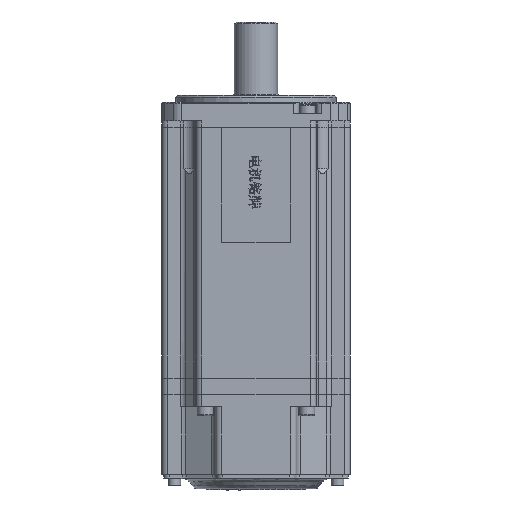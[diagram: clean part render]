
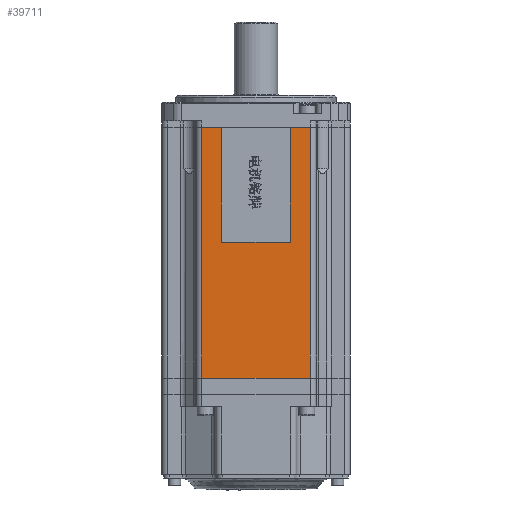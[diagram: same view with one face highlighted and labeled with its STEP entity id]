
A CAD part, front view. The second image highlights one B-rep face of the part: STEP entity #39711.
In plain terms, the highlighted planar face has unit normal (0, -1, 0).
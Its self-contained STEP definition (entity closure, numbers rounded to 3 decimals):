
#2873 = DIRECTION ( 'NONE',  ( 0., 0., -1. ) ) ;
#6667 = ORIENTED_EDGE ( 'NONE', *, *, #17121, .T. ) ;
#6726 = VECTOR ( 'NONE', #28730, 1000. ) ;
#7339 = ORIENTED_EDGE ( 'NONE', *, *, #42917, .T. ) ;
#7455 = VECTOR ( 'NONE', #23303, 1000. ) ;
#7870 = EDGE_CURVE ( 'NONE', #66795, #58585, #7903, .T. ) ;
#7903 = LINE ( 'NONE', #29034, #6726 ) ;
#9279 = CARTESIAN_POINT ( 'NONE',  ( 23.75, -41., 1000. ) ) ;
#10246 = LINE ( 'NONE', #48292, #54298 ) ;
#10644 = AXIS2_PLACEMENT_3D ( 'NONE', #16101, #72655, #80353 ) ;
#14652 = CARTESIAN_POINT ( 'NONE',  ( -15., -41., 109.2 ) ) ;
#15133 = EDGE_CURVE ( 'NONE', #58585, #85407, #53420, .T. ) ;
#15769 = EDGE_CURVE ( 'NONE', #27861, #48225, #54466, .T. ) ;
#16101 = CARTESIAN_POINT ( 'NONE',  ( -23.75, -41., 1000. ) ) ;
#16297 = VECTOR ( 'NONE', #23389, 1000. ) ;
#16816 = CARTESIAN_POINT ( 'NONE',  ( -23.75, -41., 109.2 ) ) ;
#16856 = EDGE_CURVE ( 'NONE', #90064, #39120, #82927, .T. ) ;
#17121 = EDGE_CURVE ( 'NONE', #75647, #85407, #10246, .T. ) ;
#17306 = PLANE ( 'NONE',  #10644 ) ;
#23303 = DIRECTION ( 'NONE',  ( 0., 0., -1. ) ) ;
#23389 = DIRECTION ( 'NONE',  ( 0., 0., -1. ) ) ;
#27861 = VERTEX_POINT ( 'NONE', #67717 ) ;
#28730 = DIRECTION ( 'NONE',  ( 1., 0., 0. ) ) ;
#29034 = CARTESIAN_POINT ( 'NONE',  ( -15., -41., 59.2 ) ) ;
#31621 = DIRECTION ( 'NONE',  ( -1., 0., 0. ) ) ;
#33952 = ORIENTED_EDGE ( 'NONE', *, *, #80002, .F. ) ;
#34567 = ORIENTED_EDGE ( 'NONE', *, *, #15133, .F. ) ;
#37683 = ORIENTED_EDGE ( 'NONE', *, *, #44193, .F. ) ;
#37790 = CARTESIAN_POINT ( 'NONE',  ( -198.803, -41., 109.2 ) ) ;
#39120 = VERTEX_POINT ( 'NONE', #16816 ) ;
#39711 = ADVANCED_FACE ( 'NONE', ( #45254 ), #17306, .F. ) ;
#40201 = EDGE_LOOP ( 'NONE', ( #6667, #34567, #52936, #33952, #81441, #7339, #45531, #37683 ) ) ;
#42917 = EDGE_CURVE ( 'NONE', #39120, #27861, #47077, .T. ) ;
#44193 = EDGE_CURVE ( 'NONE', #75647, #48225, #72407, .T. ) ;
#44405 = CARTESIAN_POINT ( 'NONE',  ( 15., -41., 59.2 ) ) ;
#44747 = CARTESIAN_POINT ( 'NONE',  ( -15., -41., 59.2 ) ) ;
#45057 = CARTESIAN_POINT ( 'NONE',  ( -15., -41., 59.2 ) ) ;
#45254 = FACE_OUTER_BOUND ( 'NONE', #40201, .T. ) ;
#45531 = ORIENTED_EDGE ( 'NONE', *, *, #15769, .T. ) ;
#47077 = LINE ( 'NONE', #80223, #7455 ) ;
#48225 = VERTEX_POINT ( 'NONE', #71517 ) ;
#48292 = CARTESIAN_POINT ( 'NONE',  ( -198.803, -41., 109.2 ) ) ;
#51992 = CARTESIAN_POINT ( 'NONE',  ( 15., -41., 59.2 ) ) ;
#52936 = ORIENTED_EDGE ( 'NONE', *, *, #7870, .F. ) ;
#53420 = LINE ( 'NONE', #51992, #57860 ) ;
#54298 = VECTOR ( 'NONE', #55363, 1000. ) ;
#54466 = LINE ( 'NONE', #64458, #70952 ) ;
#55363 = DIRECTION ( 'NONE',  ( -1., 0., 0. ) ) ;
#57860 = VECTOR ( 'NONE', #58152, 1000. ) ;
#58152 = DIRECTION ( 'NONE',  ( 0., 0., 1. ) ) ;
#58585 = VERTEX_POINT ( 'NONE', #44405 ) ;
#60729 = CARTESIAN_POINT ( 'NONE',  ( 15., -41., 109.2 ) ) ;
#64458 = CARTESIAN_POINT ( 'NONE',  ( -23.75, -41., 0. ) ) ;
#64521 = LINE ( 'NONE', #45057, #76571 ) ;
#66795 = VERTEX_POINT ( 'NONE', #44747 ) ;
#67717 = CARTESIAN_POINT ( 'NONE',  ( -23.75, -41., 0. ) ) ;
#70952 = VECTOR ( 'NONE', #78600, 1000. ) ;
#71517 = CARTESIAN_POINT ( 'NONE',  ( 23.75, -41., 0. ) ) ;
#72407 = LINE ( 'NONE', #9279, #16297 ) ;
#72655 = DIRECTION ( 'NONE',  ( 0., 1., 0. ) ) ;
#75647 = VERTEX_POINT ( 'NONE', #91026 ) ;
#76277 = VECTOR ( 'NONE', #31621, 1000. ) ;
#76571 = VECTOR ( 'NONE', #2873, 1000. ) ;
#78600 = DIRECTION ( 'NONE',  ( 1., 0., 0. ) ) ;
#80002 = EDGE_CURVE ( 'NONE', #90064, #66795, #64521, .T. ) ;
#80223 = CARTESIAN_POINT ( 'NONE',  ( -23.75, -41., 1000. ) ) ;
#80353 = DIRECTION ( 'NONE',  ( 0., 0., 1. ) ) ;
#81441 = ORIENTED_EDGE ( 'NONE', *, *, #16856, .T. ) ;
#82927 = LINE ( 'NONE', #37790, #76277 ) ;
#85407 = VERTEX_POINT ( 'NONE', #60729 ) ;
#90064 = VERTEX_POINT ( 'NONE', #14652 ) ;
#91026 = CARTESIAN_POINT ( 'NONE',  ( 23.75, -41., 109.2 ) ) ;
